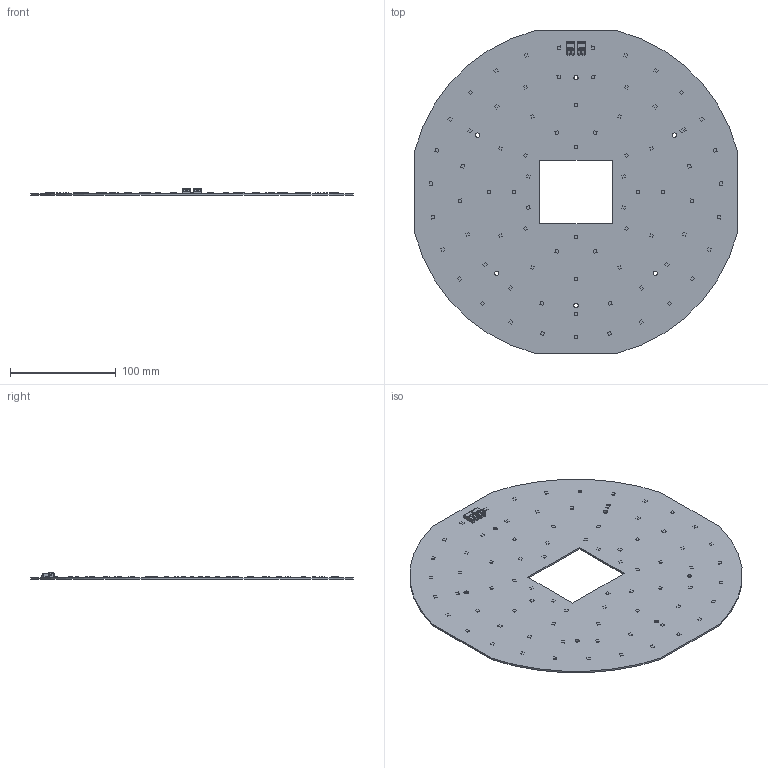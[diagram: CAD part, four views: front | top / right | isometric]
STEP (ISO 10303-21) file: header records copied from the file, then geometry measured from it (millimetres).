
FILE_DESCRIPTION((''),'2;1');
FILE_NAME('16208844_CLE-G4-315-ADV-EM-SO','2019-06-17T13:37:07',('bernhard.fink'),(''),'CREO PARAMETRIC BY PTC INC, 2017380','CREO PARAMETRIC BY PTC INC, 2017380','');
FILE_SCHEMA(('AUTOMOTIVE_DESIGN { 1 0 10303 214 1 1 1 1 }'));
Length unit declared in the file: millimetre
Products named in the file (1): 16208844_CLE-G4-315-ADV-EM-SO
Bounding box: 305 x 305 x 6.15 mm (x, y, z)
Volume: 120828.5 mm3; surface area: 149065 mm2
Topology: 1 solids, 1 shells, 773 faces, 2050 edges, 1364 vertices
Faces by surface type: plane 645, cylinder 124, sphere 4
Entity records: 36083 total; most frequent: CARTESIAN_POINT 4385, ORIENTED_EDGE 4100, DIRECTION 3816, PRESENTATION_STYLE_ASSIGNMENT 2794, STYLED_ITEM 2051, CURVE_STYLE 2050, EDGE_CURVE 2050, VECTOR 1746
